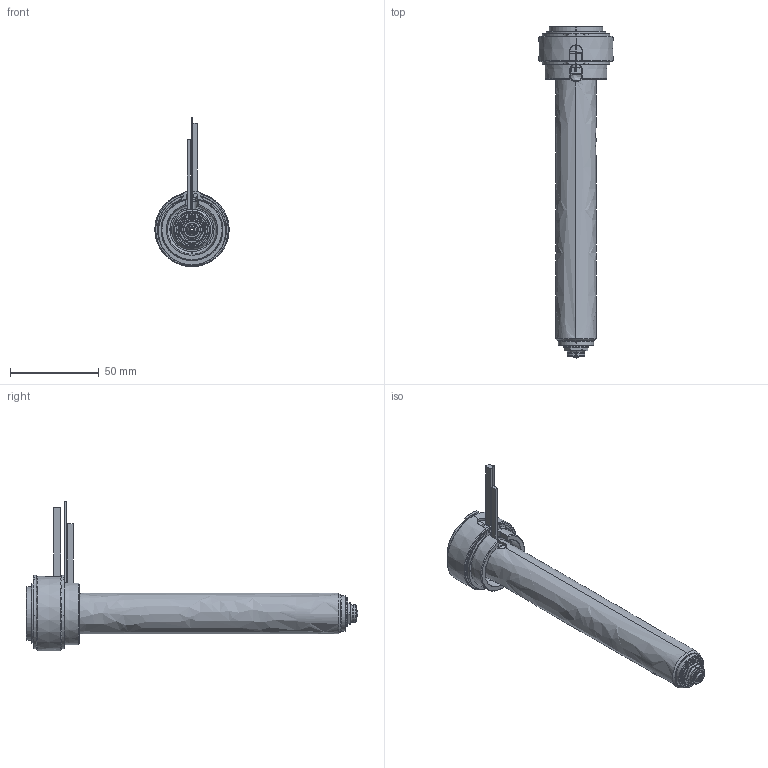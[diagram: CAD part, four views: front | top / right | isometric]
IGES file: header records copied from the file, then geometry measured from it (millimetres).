
Start section: SolidWorks IGES file using analytic representation for surfaces
Global section: file name: C:\Documents and Settings\ws-20\Desktop\TEM\UGER3554-M-A-1 [Øb-1.70  ØC-6.0].IGS; native system: SolidWorks 2012; preprocessor: SolidWorks 2012; author: ws-20; date: 120410.095326; units: millimetre
Bounding box: 42 x 187.4 x 84.4 mm (x, y, z)
Surface area: 42121.9 mm2 (no closed solid volume)
Topology: 0 solids, 0 shells, 194 faces, 3218 edges, 3218 vertices
Faces by surface type: revolution 124, bspline 70
